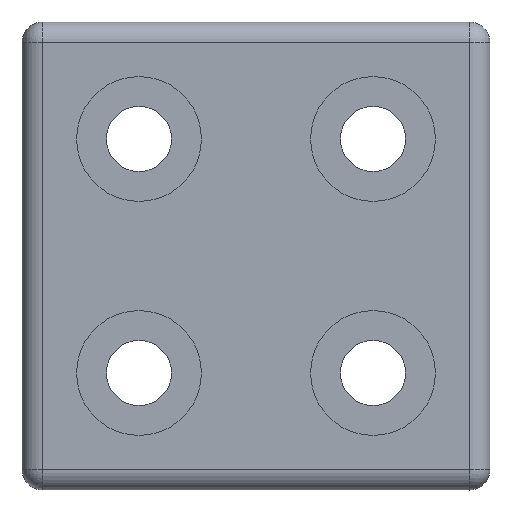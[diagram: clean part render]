
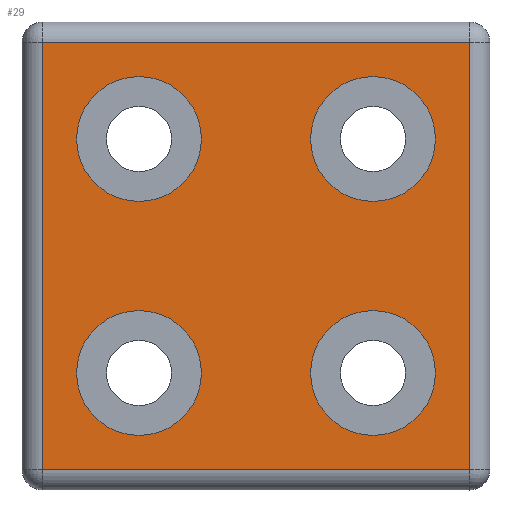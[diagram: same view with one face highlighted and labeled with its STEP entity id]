
A CAD part, left-side view. The second image highlights one B-rep face of the part: STEP entity #29.
In plain terms, the highlighted planar face has unit normal (-1, 0, 0) as drawn and (0, 0, 1) by its records, which use the part's own axes.
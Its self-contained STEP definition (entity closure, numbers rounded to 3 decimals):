
#17 = FACE_BOUND ( 'NONE', #116, .T. ) ;
#29 = ADVANCED_FACE ( 'NONE', ( #622, #590, #294, #1153, #17 ), #1229, .T. ) ;
#34 = CIRCLE ( 'NONE', #1157, 12. ) ;
#44 = CIRCLE ( 'NONE', #767, 12. ) ;
#48 = ORIENTED_EDGE ( 'NONE', *, *, #376, .T. ) ;
#56 = ORIENTED_EDGE ( 'NONE', *, *, #685, .F. ) ;
#75 = DIRECTION ( 'NONE',  ( 0., 0., 1. ) ) ;
#82 = EDGE_LOOP ( 'NONE', ( #1189, #1095, #48, #936 ) ) ;
#103 = CARTESIAN_POINT ( 'NONE',  ( 22.5, -22.5, 4. ) ) ;
#116 = EDGE_LOOP ( 'NONE', ( #1273, #1333 ) ) ;
#120 = ORIENTED_EDGE ( 'NONE', *, *, #991, .F. ) ;
#151 = CARTESIAN_POINT ( 'NONE',  ( 45., -41., 4. ) ) ;
#159 = CARTESIAN_POINT ( 'NONE',  ( 34.5, -22.5, 4. ) ) ;
#162 = CARTESIAN_POINT ( 'NONE',  ( -10.5, -22.5, 4. ) ) ;
#180 = CARTESIAN_POINT ( 'NONE',  ( 41., 41., 4. ) ) ;
#182 = CARTESIAN_POINT ( 'NONE',  ( -45., 41., 4. ) ) ;
#211 = CARTESIAN_POINT ( 'NONE',  ( 41., -41., 4. ) ) ;
#213 = EDGE_CURVE ( 'NONE', #852, #499, #724, .T. ) ;
#216 = ORIENTED_EDGE ( 'NONE', *, *, #413, .F. ) ;
#256 = DIRECTION ( 'NONE',  ( 1., 0., 0. ) ) ;
#270 = DIRECTION ( 'NONE',  ( 1., 0., 0. ) ) ;
#276 = VECTOR ( 'NONE', #1234, 1000. ) ;
#284 = DIRECTION ( 'NONE',  ( 1., 0., 0. ) ) ;
#287 = DIRECTION ( 'NONE',  ( 1., 0., 0. ) ) ;
#294 = FACE_BOUND ( 'NONE', #957, .T. ) ;
#303 = CARTESIAN_POINT ( 'NONE',  ( 41., 45., 4. ) ) ;
#324 = EDGE_CURVE ( 'NONE', #565, #819, #571, .T. ) ;
#341 = CARTESIAN_POINT ( 'NONE',  ( 34.5, 22.5, 4. ) ) ;
#346 = DIRECTION ( 'NONE',  ( 0., 0., 1. ) ) ;
#347 = AXIS2_PLACEMENT_3D ( 'NONE', #1158, #929, #914 ) ;
#352 = DIRECTION ( 'NONE',  ( 0., 0., 1. ) ) ;
#361 = CIRCLE ( 'NONE', #457, 12. ) ;
#369 = EDGE_CURVE ( 'NONE', #1124, #453, #755, .T. ) ;
#376 = EDGE_CURVE ( 'NONE', #819, #1124, #733, .T. ) ;
#386 = ORIENTED_EDGE ( 'NONE', *, *, #563, .F. ) ;
#392 = VERTEX_POINT ( 'NONE', #1126 ) ;
#393 = ORIENTED_EDGE ( 'NONE', *, *, #447, .F. ) ;
#394 = CARTESIAN_POINT ( 'NONE',  ( -41., 41., 4. ) ) ;
#395 = DIRECTION ( 'NONE',  ( 0., -1., 0. ) ) ;
#402 = VERTEX_POINT ( 'NONE', #341 ) ;
#405 = CARTESIAN_POINT ( 'NONE',  ( 22.5, 22.5, 4. ) ) ;
#413 = EDGE_CURVE ( 'NONE', #1064, #392, #1306, .T. ) ;
#447 = EDGE_CURVE ( 'NONE', #850, #781, #361, .T. ) ;
#453 = VERTEX_POINT ( 'NONE', #394 ) ;
#457 = AXIS2_PLACEMENT_3D ( 'NONE', #749, #955, #1067 ) ;
#461 = VECTOR ( 'NONE', #907, 1000. ) ;
#466 = CARTESIAN_POINT ( 'NONE',  ( -22.5, 22.5, 4. ) ) ;
#483 = AXIS2_PLACEMENT_3D ( 'NONE', #405, #75, #526 ) ;
#489 = DIRECTION ( 'NONE',  ( 0., 0., 1. ) ) ;
#499 = VERTEX_POINT ( 'NONE', #162 ) ;
#526 = DIRECTION ( 'NONE',  ( 1., 0., 0. ) ) ;
#542 = AXIS2_PLACEMENT_3D ( 'NONE', #698, #352, #1145 ) ;
#563 = EDGE_CURVE ( 'NONE', #595, #402, #44, .T. ) ;
#565 = VERTEX_POINT ( 'NONE', #1312 ) ;
#571 = LINE ( 'NONE', #151, #276 ) ;
#585 = EDGE_CURVE ( 'NONE', #392, #1064, #683, .T. ) ;
#590 = FACE_BOUND ( 'NONE', #1069, .T. ) ;
#595 = VERTEX_POINT ( 'NONE', #927 ) ;
#596 = CARTESIAN_POINT ( 'NONE',  ( -10.5, 22.5, 4. ) ) ;
#612 = EDGE_LOOP ( 'NONE', ( #216, #1109 ) ) ;
#622 = FACE_OUTER_BOUND ( 'NONE', #82, .T. ) ;
#625 = CIRCLE ( 'NONE', #483, 12. ) ;
#636 = DIRECTION ( 'NONE',  ( 1., 0., 0. ) ) ;
#661 = CIRCLE ( 'NONE', #877, 12. ) ;
#667 = DIRECTION ( 'NONE',  ( 0., 0., 1. ) ) ;
#683 = CIRCLE ( 'NONE', #938, 12. ) ;
#685 = EDGE_CURVE ( 'NONE', #402, #595, #625, .T. ) ;
#694 = VECTOR ( 'NONE', #395, 1000. ) ;
#698 = CARTESIAN_POINT ( 'NONE',  ( 0., 0., 4. ) ) ;
#724 = CIRCLE ( 'NONE', #1033, 12. ) ;
#733 = LINE ( 'NONE', #303, #461 ) ;
#749 = CARTESIAN_POINT ( 'NONE',  ( -22.5, 22.5, 4. ) ) ;
#750 = CARTESIAN_POINT ( 'NONE',  ( -22.5, -22.5, 4. ) ) ;
#755 = LINE ( 'NONE', #182, #1021 ) ;
#767 = AXIS2_PLACEMENT_3D ( 'NONE', #1242, #1339, #287 ) ;
#781 = VERTEX_POINT ( 'NONE', #1054 ) ;
#819 = VERTEX_POINT ( 'NONE', #211 ) ;
#850 = VERTEX_POINT ( 'NONE', #596 ) ;
#852 = VERTEX_POINT ( 'NONE', #1065 ) ;
#877 = AXIS2_PLACEMENT_3D ( 'NONE', #750, #489, #636 ) ;
#878 = EDGE_CURVE ( 'NONE', #453, #565, #980, .T. ) ;
#907 = DIRECTION ( 'NONE',  ( 0., 1., 0. ) ) ;
#914 = DIRECTION ( 'NONE',  ( 1., 0., 0. ) ) ;
#927 = CARTESIAN_POINT ( 'NONE',  ( 10.5, 22.5, 4. ) ) ;
#929 = DIRECTION ( 'NONE',  ( 0., 0., 1. ) ) ;
#936 = ORIENTED_EDGE ( 'NONE', *, *, #369, .T. ) ;
#938 = AXIS2_PLACEMENT_3D ( 'NONE', #103, #1060, #270 ) ;
#955 = DIRECTION ( 'NONE',  ( 0., 0., 1. ) ) ;
#957 = EDGE_LOOP ( 'NONE', ( #56, #386 ) ) ;
#974 = DIRECTION ( 'NONE',  ( -1., 0., 0. ) ) ;
#980 = LINE ( 'NONE', #1260, #694 ) ;
#991 = EDGE_CURVE ( 'NONE', #781, #850, #34, .T. ) ;
#1021 = VECTOR ( 'NONE', #974, 1000. ) ;
#1033 = AXIS2_PLACEMENT_3D ( 'NONE', #1228, #346, #284 ) ;
#1054 = CARTESIAN_POINT ( 'NONE',  ( -34.5, 22.5, 4. ) ) ;
#1060 = DIRECTION ( 'NONE',  ( 0., 0., 1. ) ) ;
#1064 = VERTEX_POINT ( 'NONE', #159 ) ;
#1065 = CARTESIAN_POINT ( 'NONE',  ( -34.5, -22.5, 4. ) ) ;
#1067 = DIRECTION ( 'NONE',  ( 1., 0., 0. ) ) ;
#1069 = EDGE_LOOP ( 'NONE', ( #393, #120 ) ) ;
#1095 = ORIENTED_EDGE ( 'NONE', *, *, #324, .T. ) ;
#1109 = ORIENTED_EDGE ( 'NONE', *, *, #585, .F. ) ;
#1124 = VERTEX_POINT ( 'NONE', #180 ) ;
#1126 = CARTESIAN_POINT ( 'NONE',  ( 10.5, -22.5, 4. ) ) ;
#1145 = DIRECTION ( 'NONE',  ( 1., 0., 0. ) ) ;
#1153 = FACE_BOUND ( 'NONE', #612, .T. ) ;
#1157 = AXIS2_PLACEMENT_3D ( 'NONE', #466, #667, #256 ) ;
#1158 = CARTESIAN_POINT ( 'NONE',  ( 22.5, -22.5, 4. ) ) ;
#1189 = ORIENTED_EDGE ( 'NONE', *, *, #878, .T. ) ;
#1228 = CARTESIAN_POINT ( 'NONE',  ( -22.5, -22.5, 4. ) ) ;
#1229 = PLANE ( 'NONE',  #542 ) ;
#1234 = DIRECTION ( 'NONE',  ( 1., 0., 0. ) ) ;
#1242 = CARTESIAN_POINT ( 'NONE',  ( 22.5, 22.5, 4. ) ) ;
#1260 = CARTESIAN_POINT ( 'NONE',  ( -41., -45., 4. ) ) ;
#1264 = EDGE_CURVE ( 'NONE', #499, #852, #661, .T. ) ;
#1273 = ORIENTED_EDGE ( 'NONE', *, *, #1264, .F. ) ;
#1306 = CIRCLE ( 'NONE', #347, 12. ) ;
#1312 = CARTESIAN_POINT ( 'NONE',  ( -41., -41., 4. ) ) ;
#1333 = ORIENTED_EDGE ( 'NONE', *, *, #213, .F. ) ;
#1339 = DIRECTION ( 'NONE',  ( 0., 0., 1. ) ) ;
